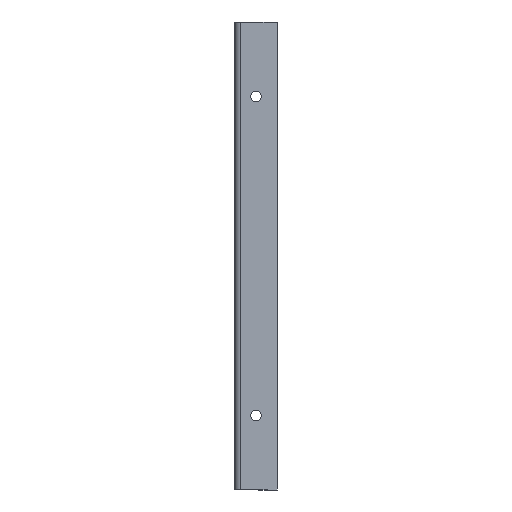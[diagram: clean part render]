
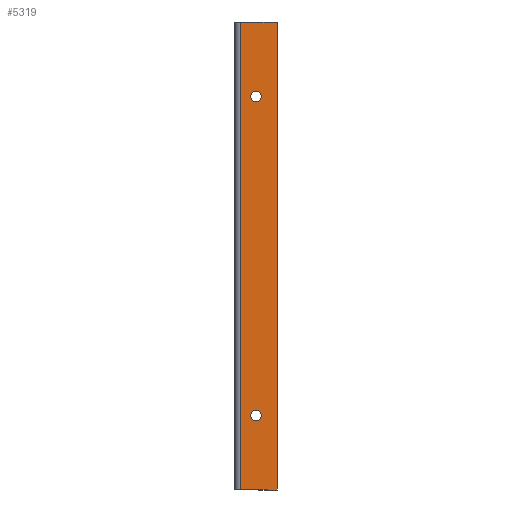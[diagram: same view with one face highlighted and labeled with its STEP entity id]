
A CAD part, front view. The second image highlights one B-rep face of the part: STEP entity #5319.
In plain terms, the highlighted planar face has unit normal (0, -1, 0).
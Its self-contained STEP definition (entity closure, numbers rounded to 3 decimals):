
#35 = CARTESIAN_POINT ( 'NONE',  ( 102.736, -2., 100. ) ) ;
#36 = CIRCLE ( 'NONE', #3575, 2.5 ) ;
#360 = CARTESIAN_POINT ( 'NONE',  ( 110., -2., -82.5 ) ) ;
#520 = DIRECTION ( 'NONE',  ( 0., 0., -1. ) ) ;
#527 = EDGE_CURVE ( 'NONE', #3003, #5438, #2190, .T. ) ;
#929 = ORIENTED_EDGE ( 'NONE', *, *, #3718, .F. ) ;
#1124 = DIRECTION ( 'NONE',  ( 0., 0., -1. ) ) ;
#1279 = DIRECTION ( 'NONE',  ( 1., 0., 0. ) ) ;
#1389 = CARTESIAN_POINT ( 'NONE',  ( 110., -2., 62.5 ) ) ;
#1416 = ORIENTED_EDGE ( 'NONE', *, *, #527, .F. ) ;
#1523 = VECTOR ( 'NONE', #520, 1000. ) ;
#1559 = CARTESIAN_POINT ( 'NONE',  ( 110., -2., -87.5 ) ) ;
#1562 = EDGE_CURVE ( 'NONE', #5438, #3003, #36, .T. ) ;
#1579 = EDGE_LOOP ( 'NONE', ( #3872, #6204 ) ) ;
#1589 = CARTESIAN_POINT ( 'NONE',  ( 102.736, -2., -120. ) ) ;
#1685 = CIRCLE ( 'NONE', #1699, 2.5 ) ;
#1699 = AXIS2_PLACEMENT_3D ( 'NONE', #5976, #4499, #1774 ) ;
#1774 = DIRECTION ( 'NONE',  ( 0., 0., -1. ) ) ;
#1789 = EDGE_LOOP ( 'NONE', ( #6125, #3567, #5831, #929 ) ) ;
#1870 = CARTESIAN_POINT ( 'NONE',  ( 120., -2., 100. ) ) ;
#1897 = VECTOR ( 'NONE', #3801, 1000. ) ;
#1930 = CARTESIAN_POINT ( 'NONE',  ( 120., -2., 100. ) ) ;
#1993 = EDGE_LOOP ( 'NONE', ( #4235, #1416 ) ) ;
#2059 = VECTOR ( 'NONE', #5473, 1000. ) ;
#2073 = CARTESIAN_POINT ( 'NONE',  ( 120., -2., -120. ) ) ;
#2160 = VERTEX_POINT ( 'NONE', #1589 ) ;
#2190 = CIRCLE ( 'NONE', #2567, 2.5 ) ;
#2191 = CARTESIAN_POINT ( 'NONE',  ( 120., -2., 100. ) ) ;
#2295 = AXIS2_PLACEMENT_3D ( 'NONE', #2971, #4430, #5413 ) ;
#2562 = CARTESIAN_POINT ( 'NONE',  ( 110., -2., 67.5 ) ) ;
#2566 = CARTESIAN_POINT ( 'NONE',  ( 110., -2., -85. ) ) ;
#2567 = AXIS2_PLACEMENT_3D ( 'NONE', #2566, #4457, #1124 ) ;
#2727 = EDGE_CURVE ( 'NONE', #4267, #3106, #1685, .T. ) ;
#2971 = CARTESIAN_POINT ( 'NONE',  ( 110., -2., 65. ) ) ;
#3003 = VERTEX_POINT ( 'NONE', #1559 ) ;
#3014 = CARTESIAN_POINT ( 'NONE',  ( 102.736, -2., 100. ) ) ;
#3106 = VERTEX_POINT ( 'NONE', #2562 ) ;
#3121 = EDGE_CURVE ( 'NONE', #3106, #4267, #5384, .T. ) ;
#3480 = EDGE_CURVE ( 'NONE', #4901, #2160, #5668, .T. ) ;
#3567 = ORIENTED_EDGE ( 'NONE', *, *, #4525, .T. ) ;
#3575 = AXIS2_PLACEMENT_3D ( 'NONE', #3796, #4801, #4266 ) ;
#3637 = EDGE_CURVE ( 'NONE', #5179, #5564, #4467, .T. ) ;
#3718 = EDGE_CURVE ( 'NONE', #5564, #4901, #4461, .T. ) ;
#3796 = CARTESIAN_POINT ( 'NONE',  ( 110., -2., -85. ) ) ;
#3801 = DIRECTION ( 'NONE',  ( 0., 0., -1. ) ) ;
#3872 = ORIENTED_EDGE ( 'NONE', *, *, #3121, .F. ) ;
#4105 = DIRECTION ( 'NONE',  ( 0., -1., 0. ) ) ;
#4235 = ORIENTED_EDGE ( 'NONE', *, *, #1562, .F. ) ;
#4266 = DIRECTION ( 'NONE',  ( 0., 0., -1. ) ) ;
#4267 = VERTEX_POINT ( 'NONE', #1389 ) ;
#4430 = DIRECTION ( 'NONE',  ( 0., -1., 0. ) ) ;
#4434 = FACE_BOUND ( 'NONE', #1579, .T. ) ;
#4457 = DIRECTION ( 'NONE',  ( 0., -1., 0. ) ) ;
#4461 = LINE ( 'NONE', #1870, #1897 ) ;
#4467 = LINE ( 'NONE', #5612, #4838 ) ;
#4499 = DIRECTION ( 'NONE',  ( 0., -1., 0. ) ) ;
#4525 = EDGE_CURVE ( 'NONE', #5179, #2160, #5210, .T. ) ;
#4552 = AXIS2_PLACEMENT_3D ( 'NONE', #2191, #4105, #5680 ) ;
#4801 = DIRECTION ( 'NONE',  ( 0., -1., 0. ) ) ;
#4838 = VECTOR ( 'NONE', #1279, 1000. ) ;
#4901 = VERTEX_POINT ( 'NONE', #5121 ) ;
#5079 = PLANE ( 'NONE',  #4552 ) ;
#5121 = CARTESIAN_POINT ( 'NONE',  ( 120., -2., -120. ) ) ;
#5179 = VERTEX_POINT ( 'NONE', #3014 ) ;
#5210 = LINE ( 'NONE', #35, #1523 ) ;
#5319 = ADVANCED_FACE ( 'NONE', ( #5356, #4434, #6153 ), #5079, .T. ) ;
#5356 = FACE_BOUND ( 'NONE', #1993, .T. ) ;
#5384 = CIRCLE ( 'NONE', #2295, 2.5 ) ;
#5413 = DIRECTION ( 'NONE',  ( 0., 0., -1. ) ) ;
#5438 = VERTEX_POINT ( 'NONE', #360 ) ;
#5473 = DIRECTION ( 'NONE',  ( -1., 0., 0. ) ) ;
#5564 = VERTEX_POINT ( 'NONE', #1930 ) ;
#5612 = CARTESIAN_POINT ( 'NONE',  ( 120., -2., 100. ) ) ;
#5668 = LINE ( 'NONE', #2073, #2059 ) ;
#5680 = DIRECTION ( 'NONE',  ( -1., 0., 0. ) ) ;
#5831 = ORIENTED_EDGE ( 'NONE', *, *, #3480, .F. ) ;
#5976 = CARTESIAN_POINT ( 'NONE',  ( 110., -2., 65. ) ) ;
#6125 = ORIENTED_EDGE ( 'NONE', *, *, #3637, .F. ) ;
#6153 = FACE_OUTER_BOUND ( 'NONE', #1789, .T. ) ;
#6204 = ORIENTED_EDGE ( 'NONE', *, *, #2727, .F. ) ;
